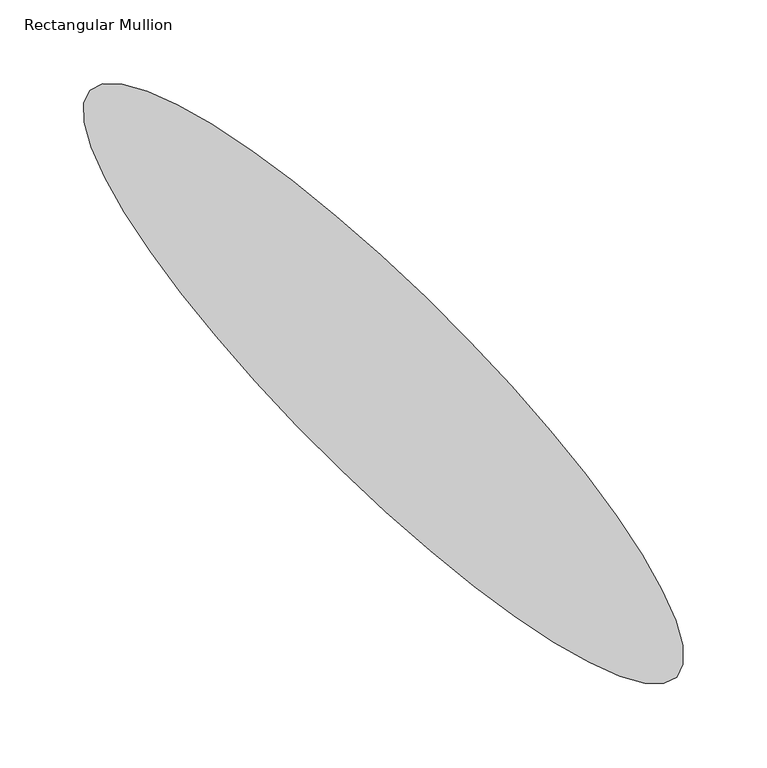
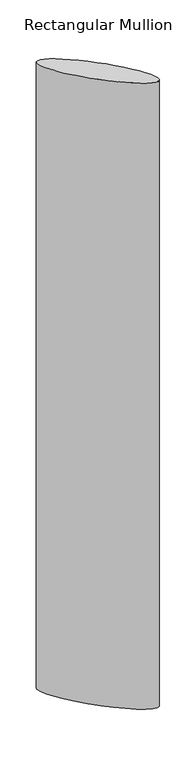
"""IFC4 building model written with IfcOpenShell, lengths in millimetres: member geometry, Rectangular Mullion : RSen_21_CWM_blade - wing 500 - 45° perforated_gen_duco projects."""

from ifc_helpers import new_model, si_unit, point, frame, origin, place, context, project, spatial, ellipse_curve, trimmed, source, transform, mapped, element, save
from ifc_brep_helpers import plane_surface, extruded_surface, advanced_brep


def rectangular_mullion_b4513789(model_context):
    return source(origin(), model_context, "Body", "AdvancedBrep", [
        advanced_brep(
        [(176.7766953, 23.2233047, 0.0), (-176.7766953, 376.7766953, 0.0), (176.7766953, 23.2233047, -3000.0), (-176.7766953, 376.7766953, -3000.0)],
        [
            (0, 1, ellipse_curve(frame((0.0, 200.0, 0.0), z_axis=(0.0, 0.0, 1.0000000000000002), x_axis=(-0.7071067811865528, 0.7071067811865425, 0.0)), 250.0, 55.0)),
            (1, 0, ellipse_curve(frame((0.0, 200.0, 0.0), z_axis=(0.0, 0.0, 1.0000000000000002), x_axis=(-0.7071067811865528, 0.7071067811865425, 0.0)), 250.0, 55.0)),
            (2, 3, ellipse_curve(frame((0.0, 200.0, -3000.0), z_axis=(0.0, 0.0, -1.0000000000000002), x_axis=(-0.7071067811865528, 0.7071067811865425, 0.0)), 250.0, 55.0)),
            (3, 2, ellipse_curve(frame((0.0, 200.0, -3000.0), z_axis=(0.0, 0.0, -1.0000000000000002), x_axis=(-0.7071067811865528, 0.7071067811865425, 0.0)), 250.0, 55.0)),
            (0, 2),
            (3, 1),
        ],
        [
            plane_surface(frame((0.0, -416.1858697, 0.0), z_axis=(0.0, 0.0, 1.0), x_axis=(-1.0, 0.0, 0.0))),
            plane_surface(frame((0.0, -416.1858697, -3000.0), z_axis=(0.0, 0.0, -1.0), x_axis=(-1.0, 0.0, 0.0))),
            extruded_surface(trimmed(ellipse_curve(frame((0.0, 200.0, -3000.0), z_axis=(0.0, 0.0, 1.0000000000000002), x_axis=(-0.7071067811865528, 0.7071067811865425, 0.0)), 250.0, 55.0), [point((176.7766953, 23.2233047, -3000.0))], [point((-176.7766953, 376.7766953, -3000.0))], True, "CARTESIAN"), (0.0, 0.0, 3000.0), 3000.0),
            extruded_surface(trimmed(ellipse_curve(frame((0.0, 200.0, -3000.0), z_axis=(0.0, 0.0, 1.0000000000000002), x_axis=(-0.7071067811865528, 0.7071067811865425, 0.0)), 250.0, 55.0), [point((-176.7766953, 376.7766953, -3000.0))], [point((176.7766953, 23.2233047, -3000.0))], True, "CARTESIAN"), (0.0, 0.0, 3000.0), 3000.0),
        ],
        [
            (0, [[1, 2]]),
            (1, [[3, 4]]),
            (2, [[-1, 5, -4, 6]]),
            (3, [[-2, -6, -3, -5]]),
        ],
    ),
    ])


if __name__ == "__main__":
    model = new_model("IFC4")
    model_context = context("Model", 3, world=origin())
    ifc_project = project(units=[si_unit("LENGTHUNIT", "METRE", prefix="MILLI")], contexts=[model_context])
    site = spatial("IfcSite", under=ifc_project)
    building = spatial("IfcBuilding", under=site)
    placement = place(None, origin())
    rectangular_mullion_shape = rectangular_mullion_b4513789(model_context)
    element("IfcMember", 1, ObjectType="Rectangular Mullion : RSen_21_CWM_blade - wing 500 - 45° perforated_gen_duco projects", at=placement, inside=building, context=model_context, shape_type="MappedRepresentation", body=[
        mapped(rectangular_mullion_shape, transform((0.0, 0.0, 0.0), x_axis=(1.0, 0.0, 0.0), y_axis=(0.0, 1.0, 0.0), z_axis=(0.0, 0.0, 1.0))),
    ])
    save(model, "model.ifc")
